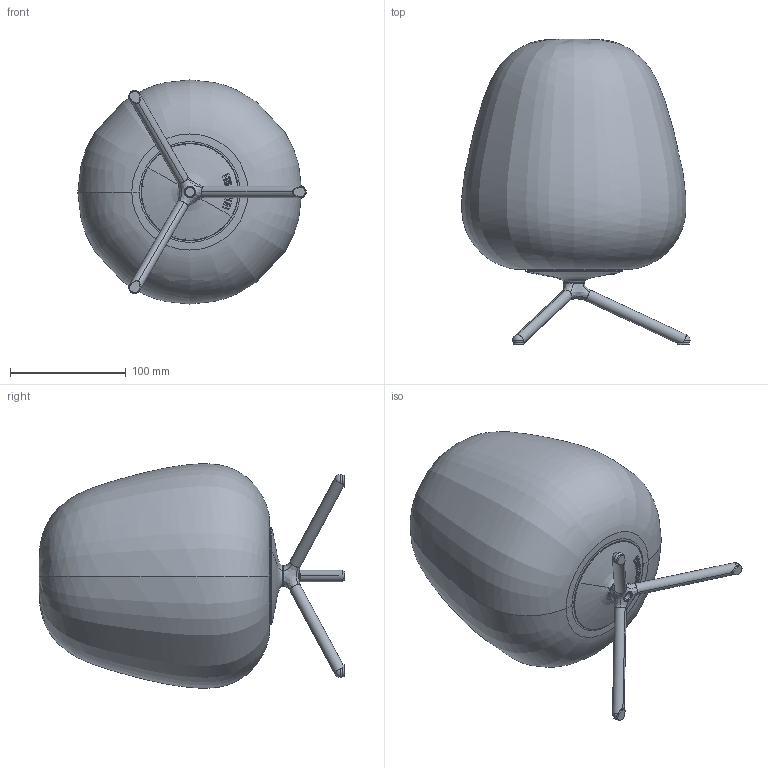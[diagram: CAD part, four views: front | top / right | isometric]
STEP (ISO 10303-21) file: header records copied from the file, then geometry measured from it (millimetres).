
FILE_DESCRIPTION (( 'STEP AP214' ), '1' );
FILE_NAME ('244_3_T_PL_2D.STEP', '2021-04-29T07:07:21', ( '' ), ( '' ), 'SwSTEP 2.0', 'SolidWorks 2021', '' );
FILE_SCHEMA (( 'AUTOMOTIVE_DESIGN' ));
Length unit declared in the file: millimetre
Products named in the file (1): 244_3_T_PL_2D
Bounding box: 196.96 x 263.55 x 193.43 mm (x, y, z)
Volume: 658411.8 mm3; surface area: 275131.9 mm2
Topology: 8 solids, 8 shells, 533 faces, 1269 edges, 755 vertices
Faces by surface type: bspline 150, plane 144, cylinder 128, torus 55, cone 34, sphere 22
Entity records: 34875 total; most frequent: CARTESIAN_POINT 18034, ORIENTED_EDGE 2490, DIRECTION 1982, EDGE_CURVE 1245, AXIS2_PLACEMENT_3D 816, VERTEX_POINT 755, EDGE_LOOP 566, UNCERTAINTY_MEASURE_WITH_UNIT 543
